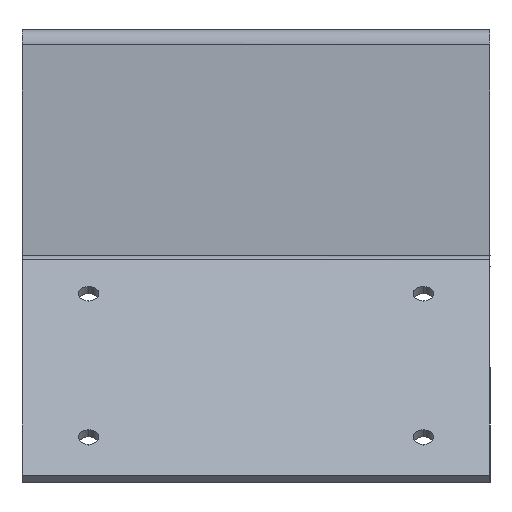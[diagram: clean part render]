
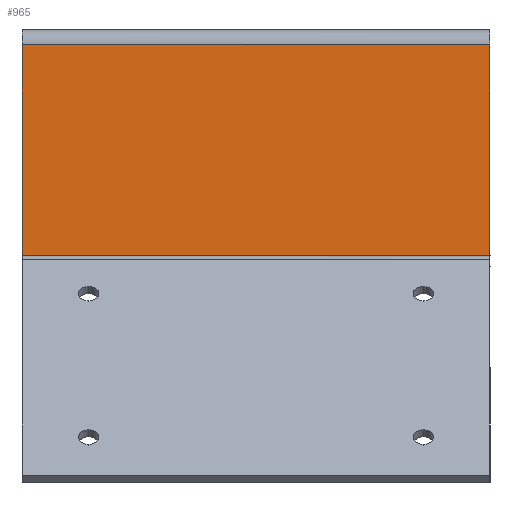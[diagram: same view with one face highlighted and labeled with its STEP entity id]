
A CAD part, left-side view. The second image highlights one B-rep face of the part: STEP entity #965.
In plain terms, the highlighted planar face has unit normal (-1, 0, 0).
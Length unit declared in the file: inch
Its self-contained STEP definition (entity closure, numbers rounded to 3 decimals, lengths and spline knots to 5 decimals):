
#30 = CARTESIAN_POINT ( 'NONE',  ( -2.36, 4.33, -3.996 ) ) ;
#641 = B_SPLINE_CURVE_WITH_KNOTS ( 'NONE', 3,
 ( #1123, #8568, #3604, #4463 ),
 .UNSPECIFIED., .F., .F.,
 ( 4, 4 ),
 ( 0., 1. ),
 .UNSPECIFIED. ) ;
#891 = CARTESIAN_POINT ( 'NONE',  ( -2.36, -1.44333, -3.996 ) ) ;
#965 = ADVANCED_FACE ( 'NONE', ( #8645 ), #6114, .T. ) ;
#1123 = CARTESIAN_POINT ( 'NONE',  ( -2.36, -4.33, -0.09375 ) ) ;
#1384 = CARTESIAN_POINT ( 'NONE',  ( -2.36, 4.33, -2.69525 ) ) ;
#1632 = ORIENTED_EDGE ( 'NONE', *, *, #2625, .F. ) ;
#1705 = CARTESIAN_POINT ( 'NONE',  ( -2.36, 1.44333, -3.996 ) ) ;
#2037 = VERTEX_POINT ( 'NONE', #7726 ) ;
#2232 = CARTESIAN_POINT ( 'NONE',  ( -2.36, -4.33, -3.996 ) ) ;
#2246 = CARTESIAN_POINT ( 'NONE',  ( -2.36, 4.33, -0.09375 ) ) ;
#2303 = CARTESIAN_POINT ( 'NONE',  ( -2.36, 4.33, -1.3945 ) ) ;
#2308 = CARTESIAN_POINT ( 'NONE',  ( -2.36, -4.33, -0.09375 ) ) ;
#2335 = CARTESIAN_POINT ( 'NONE',  ( -2.36, 4.33, -3.996 ) ) ;
#2363 = CARTESIAN_POINT ( 'NONE',  ( -2.36, 4.33, -3.996 ) ) ;
#2625 = EDGE_CURVE ( 'NONE', #2037, #5954, #4371, .T. ) ;
#2778 = ORIENTED_EDGE ( 'NONE', *, *, #6508, .F. ) ;
#3176 = CARTESIAN_POINT ( 'NONE',  ( -2.36, 2.40556, -0.09375 ) ) ;
#3308 = AXIS2_PLACEMENT_3D ( 'NONE', #7955, #4660, #7150 ) ;
#3343 = B_SPLINE_CURVE_WITH_KNOTS ( 'NONE', 3,
 ( #2363, #1384, #2303, #7331 ),
 .UNSPECIFIED., .F., .F.,
 ( 4, 4 ),
 ( 0., 1. ),
 .UNSPECIFIED. ) ;
#3604 = CARTESIAN_POINT ( 'NONE',  ( -2.36, -4.33, -2.69525 ) ) ;
#4178 = CARTESIAN_POINT ( 'NONE',  ( -2.36, -4.33, -3.996 ) ) ;
#4371 = B_SPLINE_CURVE_WITH_KNOTS ( 'NONE', 3,
 ( #2246, #3176, #5544, #2308 ),
 .UNSPECIFIED., .F., .F.,
 ( 4, 4 ),
 ( 0., 1. ),
 .UNSPECIFIED. ) ;
#4463 = CARTESIAN_POINT ( 'NONE',  ( -2.36, -4.33, -3.996 ) ) ;
#4660 = DIRECTION ( 'NONE',  ( -1., 0., 0. ) ) ;
#4684 = ORIENTED_EDGE ( 'NONE', *, *, #8549, .T. ) ;
#5544 = CARTESIAN_POINT ( 'NONE',  ( -2.36, -2.40556, -0.09375 ) ) ;
#5945 = B_SPLINE_CURVE_WITH_KNOTS ( 'NONE', 3,
 ( #30, #1705, #891, #4178 ),
 .UNSPECIFIED., .F., .F.,
 ( 4, 4 ),
 ( 0., 1. ),
 .UNSPECIFIED. ) ;
#5954 = VERTEX_POINT ( 'NONE', #7148 ) ;
#6114 = PLANE ( 'NONE',  #3308 ) ;
#6173 = EDGE_CURVE ( 'NONE', #5954, #8468, #641, .T. ) ;
#6508 = EDGE_CURVE ( 'NONE', #10438, #2037, #3343, .T. ) ;
#6768 = EDGE_LOOP ( 'NONE', ( #1632, #2778, #4684, #7199 ) ) ;
#7148 = CARTESIAN_POINT ( 'NONE',  ( -2.36, -4.33, -0.09375 ) ) ;
#7150 = DIRECTION ( 'NONE',  ( 0., -1., 0. ) ) ;
#7199 = ORIENTED_EDGE ( 'NONE', *, *, #6173, .F. ) ;
#7331 = CARTESIAN_POINT ( 'NONE',  ( -2.36, 4.33, -0.09375 ) ) ;
#7726 = CARTESIAN_POINT ( 'NONE',  ( -2.36, 4.33, -0.09375 ) ) ;
#7955 = CARTESIAN_POINT ( 'NONE',  ( -2.36, 4.33, -3.996 ) ) ;
#8468 = VERTEX_POINT ( 'NONE', #2232 ) ;
#8549 = EDGE_CURVE ( 'NONE', #10438, #8468, #5945, .T. ) ;
#8568 = CARTESIAN_POINT ( 'NONE',  ( -2.36, -4.33, -1.3945 ) ) ;
#8645 = FACE_OUTER_BOUND ( 'NONE', #6768, .T. ) ;
#10438 = VERTEX_POINT ( 'NONE', #2335 ) ;
